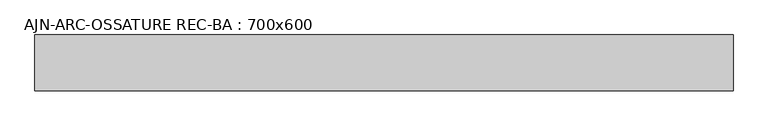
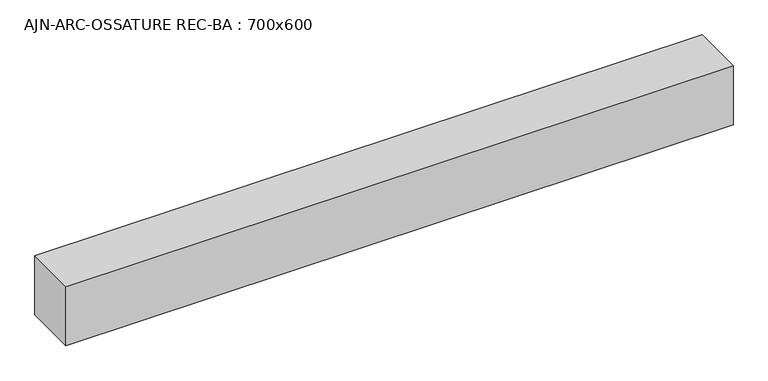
"""IFC4 building model written with IfcOpenShell, lengths in millimetres: beam geometry, AJN-ARC-OSSATURE REC-BA : 700x600."""

from ifc_helpers import new_model, si_unit, frame, origin, place, context, project, spatial, polyline, outline, extrude, source, transform, mapped, element, save


def ajn_arc_ossature_rec_ba_700x600_f102b2b9(model_context):
    return source(origin(), model_context, "Body", "SweptSolid", [
        extrude(outline(polyline([(3737.3, 300.0), (3737.3, -300.0), (-3737.3, -300.0), (-3737.3, 300.0), (3737.3, 300.0)])), frame((0.0, 0.0, -350.0), z_axis=(0.0, 0.0, 1.0), x_axis=(1.0, 0.0, 0.0)), (0.0, 0.0, 1.0), 700.0),
    ])


if __name__ == "__main__":
    model = new_model("IFC4")
    model_context = context("Model", 3, world=origin())
    ifc_project = project(units=[si_unit("LENGTHUNIT", "METRE", prefix="MILLI")], contexts=[model_context])
    site = spatial("IfcSite", under=ifc_project)
    building = spatial("IfcBuilding", under=site)
    placement = place(None, origin())
    ajn_arc_ossature_rec_ba_700x600_shape = ajn_arc_ossature_rec_ba_700x600_f102b2b9(model_context)
    element("IfcBeam", 1, ObjectType="AJN-ARC-OSSATURE REC-BA : 700x600", at=placement, inside=building, context=model_context, shape_type="MappedRepresentation", body=[
        mapped(ajn_arc_ossature_rec_ba_700x600_shape, transform((0.0, 0.0, 0.0), x_axis=(1.0, 0.0, 0.0), y_axis=(0.0, 1.0, 0.0), z_axis=(0.0, 0.0, 1.0))),
    ])
    save(model, "model.ifc")
